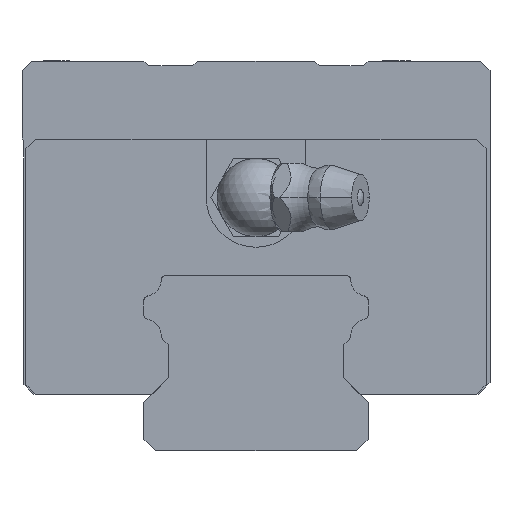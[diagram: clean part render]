
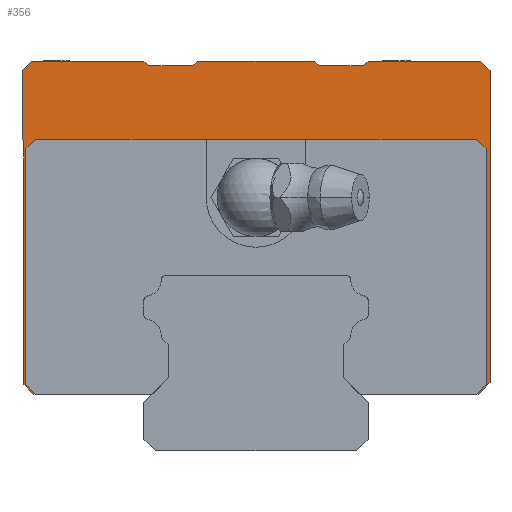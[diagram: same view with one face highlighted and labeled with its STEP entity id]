
A CAD part, front view. The second image highlights one B-rep face of the part: STEP entity #356.
In plain terms, the highlighted planar face has unit normal (0, -1, 0).
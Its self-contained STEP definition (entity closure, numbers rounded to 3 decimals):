
#356=ADVANCED_FACE('',(#785),#786,.T.);
#785=FACE_OUTER_BOUND('',#1321,.T.);
#786=PLANE('',#1322);
#1321=EDGE_LOOP('',(#2875,#2876,#2877,#2878,#2879,#2880,#2881,#2882,#2883,#2884,#2885,#2886,#2887,#2888,#2889,#2890,#2891,#2892,#2893,#2894,#2895,#2896,#2897,#2898,#2899,#2900));
#1322=AXIS2_PLACEMENT_3D('',#2901,#2902,#2903);
#2875=ORIENTED_EDGE('',*,*,#3832,.F.);
#2876=ORIENTED_EDGE('',*,*,#3842,.F.);
#2877=ORIENTED_EDGE('',*,*,#3650,.F.);
#2878=ORIENTED_EDGE('',*,*,#3718,.F.);
#2879=ORIENTED_EDGE('',*,*,#3843,.F.);
#2880=ORIENTED_EDGE('',*,*,#3764,.F.);
#2881=ORIENTED_EDGE('',*,*,#3755,.F.);
#2882=ORIENTED_EDGE('',*,*,#3770,.T.);
#2883=ORIENTED_EDGE('',*,*,#3844,.T.);
#2884=ORIENTED_EDGE('',*,*,#3725,.T.);
#2885=ORIENTED_EDGE('',*,*,#3759,.T.);
#2886=ORIENTED_EDGE('',*,*,#3783,.T.);
#2887=ORIENTED_EDGE('',*,*,#3712,.T.);
#2888=ORIENTED_EDGE('',*,*,#3646,.T.);
#2889=ORIENTED_EDGE('',*,*,#3715,.T.);
#2890=ORIENTED_EDGE('',*,*,#3729,.T.);
#2891=ORIENTED_EDGE('',*,*,#3845,.T.);
#2892=ORIENTED_EDGE('',*,*,#3654,.T.);
#2893=ORIENTED_EDGE('',*,*,#3749,.T.);
#2894=ORIENTED_EDGE('',*,*,#3745,.T.);
#2895=ORIENTED_EDGE('',*,*,#3838,.T.);
#2896=ORIENTED_EDGE('',*,*,#3846,.T.);
#2897=ORIENTED_EDGE('',*,*,#3847,.T.);
#2898=ORIENTED_EDGE('',*,*,#3848,.T.);
#2899=ORIENTED_EDGE('',*,*,#3816,.T.);
#2900=ORIENTED_EDGE('',*,*,#3849,.T.);
#2901=CARTESIAN_POINT('',(-23.6,-8.5,5.8));
#2902=DIRECTION('',(0.0,-1.0,0.0));
#2903=DIRECTION('',(0.0,0.0,-1.0));
#3646=EDGE_CURVE('',#4757,#4758,#4759,.T.);
#3650=EDGE_CURVE('',#4765,#4766,#4767,.T.);
#3654=EDGE_CURVE('',#4773,#4774,#4775,.T.);
#3712=EDGE_CURVE('',#4873,#4757,#4874,.T.);
#3715=EDGE_CURVE('',#4758,#4878,#4879,.T.);
#3718=EDGE_CURVE('',#4883,#4765,#4884,.T.);
#3725=EDGE_CURVE('',#4896,#4897,#4898,.T.);
#3729=EDGE_CURVE('',#4878,#4904,#4905,.T.);
#3745=EDGE_CURVE('',#4926,#4927,#4928,.T.);
#3749=EDGE_CURVE('',#4774,#4926,#4934,.T.);
#3755=EDGE_CURVE('',#4942,#4943,#4944,.T.);
#3759=EDGE_CURVE('',#4897,#4950,#4951,.T.);
#3764=EDGE_CURVE('',#4943,#4958,#4959,.T.);
#3770=EDGE_CURVE('',#4942,#4966,#4967,.T.);
#3783=EDGE_CURVE('',#4950,#4873,#4986,.T.);
#3816=EDGE_CURVE('',#5033,#5034,#5035,.T.);
#3832=EDGE_CURVE('',#5054,#5055,#5056,.T.);
#3838=EDGE_CURVE('',#4927,#5062,#5063,.T.);
#3842=EDGE_CURVE('',#4766,#5054,#5068,.T.);
#3843=EDGE_CURVE('',#4958,#4883,#5069,.T.);
#3844=EDGE_CURVE('',#4966,#4896,#5070,.T.);
#3845=EDGE_CURVE('',#4904,#4773,#5071,.T.);
#3846=EDGE_CURVE('',#5062,#5072,#5073,.T.);
#3847=EDGE_CURVE('',#5072,#5074,#5075,.T.);
#3848=EDGE_CURVE('',#5074,#5033,#5076,.T.);
#3849=EDGE_CURVE('',#5034,#5055,#5077,.T.);
#4757=VERTEX_POINT('',#6387);
#4758=VERTEX_POINT('',#6388);
#4759=LINE('',#6389,#6390);
#4765=VERTEX_POINT('',#6399);
#4766=VERTEX_POINT('',#6400);
#4767=LINE('',#6401,#6402);
#4773=VERTEX_POINT('',#6411);
#4774=VERTEX_POINT('',#6412);
#4775=LINE('',#6413,#6414);
#4873=VERTEX_POINT('',#6548);
#4874=LINE('',#6549,#6550);
#4878=VERTEX_POINT('',#6556);
#4879=LINE('',#6557,#6558);
#4883=VERTEX_POINT('',#6564);
#4884=LINE('',#6565,#6566);
#4896=VERTEX_POINT('',#6584);
#4897=VERTEX_POINT('',#6585);
#4898=LINE('',#6586,#6587);
#4904=VERTEX_POINT('',#6596);
#4905=LINE('',#6597,#6598);
#4926=VERTEX_POINT('',#6626);
#4927=VERTEX_POINT('',#6627);
#4928=LINE('',#6628,#6629);
#4934=LINE('',#6638,#6639);
#4942=VERTEX_POINT('',#6651);
#4943=VERTEX_POINT('',#6652);
#4944=LINE('',#6653,#6654);
#4950=VERTEX_POINT('',#6663);
#4951=LINE('',#6664,#6665);
#4958=VERTEX_POINT('',#6675);
#4959=LINE('',#6676,#6677);
#4966=VERTEX_POINT('',#6686);
#4967=LINE('',#6687,#6688);
#4986=LINE('',#6713,#6714);
#5033=VERTEX_POINT('',#6780);
#5034=VERTEX_POINT('',#6781);
#5035=LINE('',#6782,#6783);
#5054=VERTEX_POINT('',#6814);
#5055=VERTEX_POINT('',#6815);
#5056=LINE('',#6816,#6817);
#5062=VERTEX_POINT('',#6827);
#5063=LINE('',#6828,#6829);
#5068=LINE('',#6836,#6837);
#5069=LINE('',#6838,#6839);
#5070=LINE('',#6840,#6841);
#5071=LINE('',#6842,#6843);
#5072=VERTEX_POINT('',#6844);
#5073=LINE('',#6845,#6846);
#5074=VERTEX_POINT('',#6847);
#5075=LINE('',#6848,#6849);
#5076=LINE('',#6850,#6851);
#5077=LINE('',#6852,#6853);
#6387=CARTESIAN_POINT('',(11.0,-8.5,39.5));
#6388=CARTESIAN_POINT('',(6.5,-8.5,39.5));
#6389=CARTESIAN_POINT('',(11.0,-8.5,39.5));
#6390=VECTOR('',#7765,1000.0);
#6399=CARTESIAN_POINT('',(-22.6,-8.5,32.0));
#6400=CARTESIAN_POINT('',(-23.6,-8.5,31.0));
#6401=CARTESIAN_POINT('',(-22.6,-8.5,32.0));
#6402=VECTOR('',#7769,1000.0);
#6411=CARTESIAN_POINT('',(-6.5,-8.5,39.5));
#6412=CARTESIAN_POINT('',(-11.0,-8.5,39.5));
#6413=CARTESIAN_POINT('',(-6.5,-8.5,39.5));
#6414=VECTOR('',#7773,1000.0);
#6548=CARTESIAN_POINT('',(11.5,-8.5,40.0));
#6549=CARTESIAN_POINT('',(11.5,-8.5,40.0));
#6550=VECTOR('',#7873,1000.0);
#6556=CARTESIAN_POINT('',(6.0,-8.5,40.0));
#6557=CARTESIAN_POINT('',(6.5,-8.5,39.5));
#6558=VECTOR('',#7876,1000.0);
#6564=CARTESIAN_POINT('',(22.6,-8.5,32.0));
#6565=CARTESIAN_POINT('',(22.6,-8.5,32.0));
#6566=VECTOR('',#7879,1000.0);
#6584=CARTESIAN_POINT('',(24.0,-8.5,7.0));
#6585=CARTESIAN_POINT('',(24.0,-8.5,39.0));
#6586=CARTESIAN_POINT('',(24.0,-8.5,7.0));
#6587=VECTOR('',#7886,1000.0);
#6596=CARTESIAN_POINT('',(-6.,-8.5,40.0));
#6597=CARTESIAN_POINT('',(6.0,-8.5,40.0));
#6598=VECTOR('',#7890,1000.0);
#6626=CARTESIAN_POINT('',(-11.5,-8.5,40.0));
#6627=CARTESIAN_POINT('',(-23.0,-8.5,40.0));
#6628=CARTESIAN_POINT('',(-11.5,-8.5,40.0));
#6629=VECTOR('',#7922,1000.0);
#6638=CARTESIAN_POINT('',(-11.0,-8.5,39.5));
#6639=VECTOR('',#7926,1000.0);
#6651=CARTESIAN_POINT('',(22.6,-8.5,5.8));
#6652=CARTESIAN_POINT('',(23.6,-8.5,6.8));
#6653=CARTESIAN_POINT('',(22.6,-8.5,5.8));
#6654=VECTOR('',#7934,1000.0);
#6663=CARTESIAN_POINT('',(23.0,-8.5,40.0));
#6664=CARTESIAN_POINT('',(24.0,-8.5,39.0));
#6665=VECTOR('',#7938,1000.0);
#6675=CARTESIAN_POINT('',(23.6,-8.5,31.0));
#6676=CARTESIAN_POINT('',(23.6,-8.5,6.8));
#6677=VECTOR('',#7945,1000.0);
#6686=CARTESIAN_POINT('',(22.8,-8.5,5.8));
#6687=CARTESIAN_POINT('',(-22.8,-8.5,5.8));
#6688=VECTOR('',#7957,1000.0);
#6713=CARTESIAN_POINT('',(23.0,-8.5,40.0));
#6714=VECTOR('',#7982,1000.0);
#6780=CARTESIAN_POINT('',(-23.8,-8.5,6.8));
#6781=CARTESIAN_POINT('',(-22.8,-8.5,5.8));
#6782=CARTESIAN_POINT('',(-23.8,-8.5,6.8));
#6783=VECTOR('',#8041,1000.0);
#6814=CARTESIAN_POINT('',(-23.6,-8.5,6.8));
#6815=CARTESIAN_POINT('',(-22.6,-8.5,5.8));
#6816=CARTESIAN_POINT('',(-23.6,-8.5,6.8));
#6817=VECTOR('',#8063,1000.0);
#6827=CARTESIAN_POINT('',(-24.0,-8.5,39.0));
#6828=CARTESIAN_POINT('',(-23.0,-8.5,40.0));
#6829=VECTOR('',#8071,1000.0);
#6836=CARTESIAN_POINT('',(-23.6,-8.5,31.0));
#6837=VECTOR('',#8077,1000.0);
#6838=CARTESIAN_POINT('',(23.6,-8.5,31.0));
#6839=VECTOR('',#8078,1000.0);
#6840=CARTESIAN_POINT('',(22.8,-8.5,5.8));
#6841=VECTOR('',#8079,1000.0);
#6842=CARTESIAN_POINT('',(-6.,-8.5,40.0));
#6843=VECTOR('',#8080,1000.0);
#6844=CARTESIAN_POINT('',(-24.0,-8.5,32.0));
#6845=CARTESIAN_POINT('',(-24.0,-8.5,39.0));
#6846=VECTOR('',#8081,1000.0);
#6847=CARTESIAN_POINT('',(-23.8,-8.5,31.8));
#6848=CARTESIAN_POINT('',(-24.0,-8.5,32.0));
#6849=VECTOR('',#8082,1000.0);
#6850=CARTESIAN_POINT('',(-23.8,-8.5,31.8));
#6851=VECTOR('',#8083,1000.0);
#6852=CARTESIAN_POINT('',(-22.8,-8.5,5.8));
#6853=VECTOR('',#8084,1000.0);
#7765=DIRECTION('',(-1.0,0.0,0.));
#7769=DIRECTION('',(-0.707,0.0,-0.707));
#7773=DIRECTION('',(-1.0,0.0,0.));
#7873=DIRECTION('',(-0.707,0.0,-0.707));
#7876=DIRECTION('',(-0.707,0.0,0.707));
#7879=DIRECTION('',(-1.0,0.0,0.0));
#7886=DIRECTION('',(0.,0.0,1.0));
#7890=DIRECTION('',(-1.0,0.0,0.));
#7922=DIRECTION('',(-1.0,0.0,0.));
#7926=DIRECTION('',(-0.707,0.0,0.707));
#7934=DIRECTION('',(0.707,0.0,0.707));
#7938=DIRECTION('',(-0.707,0.0,0.707));
#7945=DIRECTION('',(0.0,0.0,1.0));
#7957=DIRECTION('',(1.0,0.0,0.));
#7982=DIRECTION('',(-1.0,0.0,0.));
#8041=DIRECTION('',(0.707,0.0,-0.707));
#8063=DIRECTION('',(0.707,0.0,-0.707));
#8071=DIRECTION('',(-0.707,0.0,-0.707));
#8077=DIRECTION('',(0.0,0.0,-1.0));
#8078=DIRECTION('',(-0.707,0.0,0.707));
#8079=DIRECTION('',(0.707,0.0,0.707));
#8080=DIRECTION('',(-0.707,0.0,-0.707));
#8081=DIRECTION('',(0.,0.0,-1.0));
#8082=DIRECTION('',(0.707,0.0,-0.707));
#8083=DIRECTION('',(0.,0.0,-1.0));
#8084=DIRECTION('',(1.0,0.0,0.));
